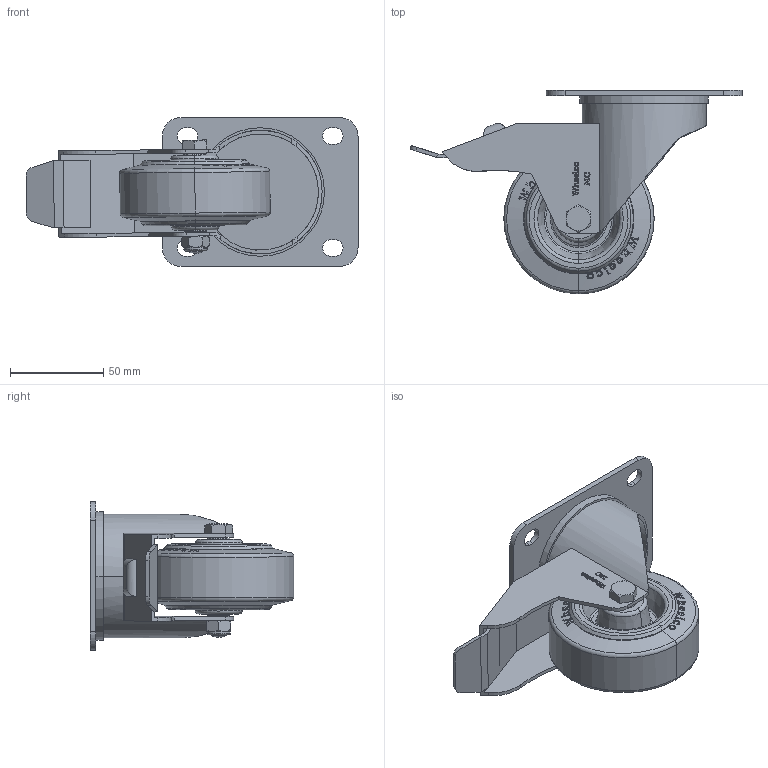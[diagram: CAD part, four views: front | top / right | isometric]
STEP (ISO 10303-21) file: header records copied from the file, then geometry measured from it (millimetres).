
FILE_DESCRIPTION (( 'STEP AP214' ), '1' );
FILE_NAME ('MCR80-P-TB.step', '2023-11-29T20:27:42', ( '' ), ( '' ), 'SwSTEP 2.0', 'SolidWorks 2022', '' );
FILE_SCHEMA (( 'AUTOMOTIVE_DESIGN' ));
Length unit declared in the file: millimetre
Products named in the file (7): MC80-P-TB; SP12-8-41; MC 105x80 Swivel Plate; M8Nyloc; M8x55; MCR80-P-TB; MCR80
Assembly tree (6 placements, depth 2):
  MCR80-P-TB
    M8Nyloc
    MC80-P-TB
    M8x55
    MC 105x80 Swivel Plate
    SP12-8-41
    MCR80
Bounding box: 178.21 x 109.25 x 80 mm (x, y, z)
Volume: 220299.4 mm3; surface area: 86901.1 mm2
Topology: 7 solids, 7 shells, 726 faces, 1926 edges, 1263 vertices
Faces by surface type: plane 338, bspline 168, cylinder 142, cone 42, torus 34, sphere 2
Entity records: 37261 total; most frequent: CARTESIAN_POINT 19587, ORIENTED_EDGE 3852, DIRECTION 2717, EDGE_CURVE 1926, VERTEX_POINT 1263, VECTOR 1021, LINE 1021, AXIS2_PLACEMENT_3D 848
